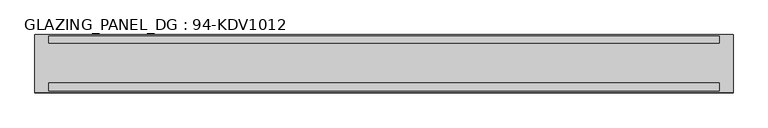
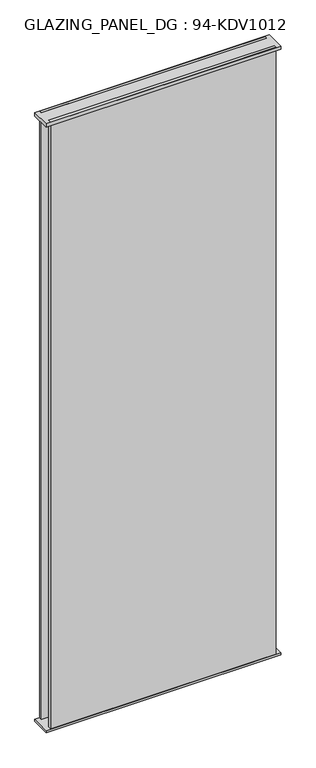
"""IFC4 building model written with IfcOpenShell, lengths in millimetres: plate geometry, GLAZING_PANEL_DG : 94-KDV1012."""

from ifc_helpers import new_model, si_unit, frame, origin, origin_with_axes, place, context, project, spatial, polyline, outline, extrude, source, transform, mapped, element, save


def glazing_panel_dg_94_kdv1012_3d991146(model_context):
    return source(origin(), model_context, "Body", "SweptSolid", [
        extrude(outline(polyline([(479.8, 39.5), (479.8, 29.5), (-479.8, 29.5), (-479.8, 39.5), (479.8, 39.5)])), origin_with_axes(), (0.0, 0.0, 1.0), 2739.0),
        extrude(outline(polyline([(479.8, -27.5), (479.8, -39.5), (-479.8, -39.5), (-479.8, -27.5), (479.8, -27.5)])), origin_with_axes(), (0.0, 0.0, 1.0), 2739.0),
        extrude(outline(polyline([(499.8, -41.5), (-499.8, -41.5), (-499.8, 41.5), (499.8, 41.5), (499.8, -41.5)])), frame((0.0, 0.0, 2724.0), z_axis=(0.0, 0.0, 1.0), x_axis=(1.0, 0.0, 0.0)), (0.0, 0.0, 1.0), 15.0),
        extrude(outline(polyline([(499.8, 41.5), (499.8, -41.5), (-499.8, -41.5), (-499.8, 41.5), (499.8, 41.5)])), origin_with_axes(), (0.0, 0.0, 1.0), 9.0),
    ])


if __name__ == "__main__":
    model = new_model("IFC4")
    model_context = context("Model", 3, world=origin())
    ifc_project = project(units=[si_unit("LENGTHUNIT", "METRE", prefix="MILLI")], contexts=[model_context])
    site = spatial("IfcSite", under=ifc_project)
    building = spatial("IfcBuilding", under=site)
    placement = place(None, origin())
    glazing_panel_dg_94_kdv1012_shape = glazing_panel_dg_94_kdv1012_3d991146(model_context)
    element("IfcPlate", 1, ObjectType="GLAZING_PANEL_DG : 94-KDV1012", at=placement, inside=building, context=model_context, shape_type="MappedRepresentation", body=[
        mapped(glazing_panel_dg_94_kdv1012_shape, transform((0.0, 0.0, 0.0), x_axis=(1.0, 0.0, 0.0), y_axis=(0.0, 1.0, 0.0), z_axis=(0.0, 0.0, 1.0))),
    ])
    save(model, "model.ifc")
